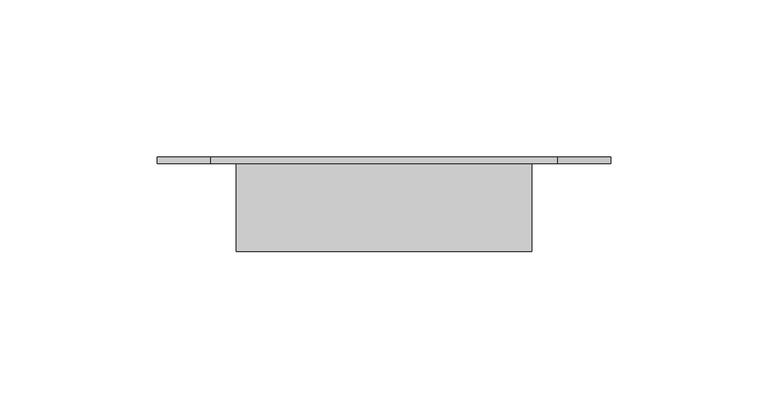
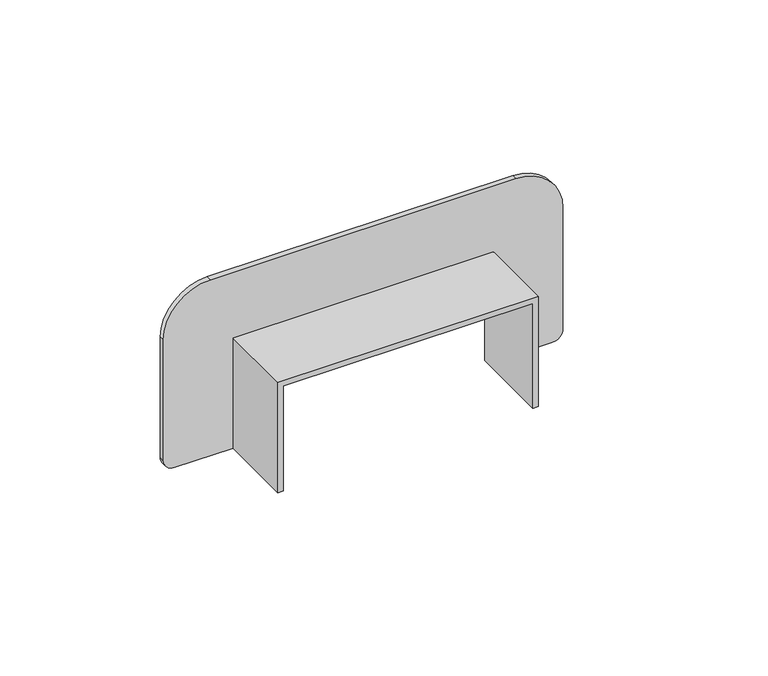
"""IFC4 building model written with IfcOpenShell, lengths in millimetres: duct fitting geometry, КНС_ПрямойВводВСтену_DKC : Прямой ввод в стену_DKC."""

import ifcopenshell
import ifcopenshell.guid

model = None  # the IFC model being written
_history = None  # IfcOwnerHistory: only IFC2X3 demands one
_inside = {}  # id of a spatial element -> (the spatial element, [elements in it])
_under = {}  # id of a project, library or spatial element -> (it, [spatial elements below it])
_declared = {}  # id of a project -> (the project, [libraries it declares])
_typed = {}  # id of a type object -> (the type object, [elements of that type])
_made_of = {}  # id of a material, layer set ... -> (it, [elements and type objects made of it])


def new_model(schema):
    """Start an empty IFC model of exactly this schema.

    Asked for "IFC4X3", IfcOpenShell would pick the latest addendum, in which some entities
    have other attributes; the version numbers below select the first issue.
    IFC2X3 requires an IfcOwnerHistory on every rooted entity: one is made here for all.
    """
    global model, _history
    if schema == "IFC4X3":
        model = ifcopenshell.file(schema_version=(4, 3, 0, 0))
    else:
        model = ifcopenshell.file(schema=schema)
    _inside.clear()
    _under.clear()
    _declared.clear()
    _typed.clear()
    _made_of.clear()
    _history = None
    if model.schema == "IFC2X3":
        org = make("IfcOrganization", Name="unknown")
        user = make(
            "IfcPersonAndOrganization",
            ThePerson=make("IfcPerson", FamilyName="unknown"),
            TheOrganization=org,
        )
        app = make(
            "IfcApplication",
            ApplicationDeveloper=org,
            Version="unknown",
            ApplicationFullName="unknown",
            ApplicationIdentifier="unknown",
        )
        _history = make(
            "IfcOwnerHistory",
            OwningUser=user,
            OwningApplication=app,
            ChangeAction="ADDED",
            CreationDate=0,
        )
    return model


def make(cls, **values):
    """One entity of the class cls with the attributes given. An attribute that is None is left unset."""
    return model.create_entity(
        cls, **{name: value for name, value in values.items() if value is not None}
    )


def rooted(cls, **values):
    """An entity with a GlobalId (a new one), such as an element, a storey or a relation."""
    return make(cls, GlobalId=ifcopenshell.guid.new(), OwnerHistory=_history, **values)


def si_unit(unit_type, name, prefix=None):
    """IfcSIUnit, for example si_unit("LENGTHUNIT", "METRE", prefix="MILLI")."""
    return make("IfcSIUnit", UnitType=unit_type, Prefix=prefix, Name=name)


def assignment(units):
    """IfcUnitAssignment: the units of a project."""
    return None if units is None else make("IfcUnitAssignment", Units=units)


def point(xyz):
    """IfcCartesianPoint."""
    return None if xyz is None else make("IfcCartesianPoint", Coordinates=xyz)


def direction(xyz):
    """IfcDirection."""
    return None if xyz is None else make("IfcDirection", DirectionRatios=xyz)


def frame(location, z_axis=None, x_axis=None):
    """IfcAxis2Placement3D, a coordinate frame: its origin and axes. An axis left out is left unset."""
    return make(
        "IfcAxis2Placement3D",
        Location=point(location),
        Axis=direction(z_axis),
        RefDirection=direction(x_axis),
    )


def frame_2d(location, x_axis=None):
    """IfcAxis2Placement2D, a coordinate frame in the plane: its origin and x axis."""
    return make(
        "IfcAxis2Placement2D", Location=point(location), RefDirection=direction(x_axis)
    )


def origin():
    """The frame at (0, 0, 0) with its axes left unset."""
    return frame((0.0, 0.0, 0.0))


def place(relative_to, where):
    """IfcLocalPlacement: puts the frame where relative to a parent placement (None: the world)."""
    return make(
        "IfcLocalPlacement", PlacementRelTo=relative_to, RelativePlacement=where
    )


def context(
    kind, dimensions, precision=None, world=None, true_north=None, identifier=None
):
    """IfcGeometricRepresentationContext, for example the 3D "Model" context."""
    return make(
        "IfcGeometricRepresentationContext",
        ContextIdentifier=identifier,
        ContextType=kind,
        CoordinateSpaceDimension=dimensions,
        Precision=precision,
        WorldCoordinateSystem=world,
        TrueNorth=true_north,
    )


def project(units=None, contexts=None):
    """IfcProject with its units and contexts."""
    return rooted(
        "IfcProject",
        Name="project",
        RepresentationContexts=contexts,
        UnitsInContext=assignment(units),
    )


def spatial(cls, under=None, at=None, **own):
    """A site, building, storey or space (cls), placed at a placement, below another one or the project."""
    s = rooted(cls, ObjectPlacement=at, **own)
    if under is not None:
        _under.setdefault(under.id(), (under, []))[1].append(s)
    return s


def polyline(points):
    """IfcPolyline through the points."""
    return make("IfcPolyline", Points=[point(p) for p in points])


def circle_curve(where, radius):
    """IfcCircle in the frame where."""
    return make("IfcCircle", Position=where, Radius=radius)


def trimmed(basis, trim1, trim2, sense, master):
    """IfcTrimmedCurve: the piece of a basis curve between two trims."""
    return make(
        "IfcTrimmedCurve",
        BasisCurve=basis,
        Trim1=trim1,
        Trim2=trim2,
        SenseAgreement=sense,
        MasterRepresentation=master,
    )


def segment(curve, same_sense, transition):
    """IfcCompositeCurveSegment."""
    return make(
        "IfcCompositeCurveSegment",
        Transition=transition,
        SameSense=same_sense,
        ParentCurve=curve,
    )


def composite_curve(segments, self_intersect=None):
    """IfcCompositeCurve: segments joined end to end."""
    return make("IfcCompositeCurve", Segments=segments, SelfIntersect=self_intersect)


def outline(outer, holes=None, kind="AREA"):
    """IfcArbitraryClosedProfileDef: a profile drawn as a closed curve; with holes, ...WithVoids."""
    if holes is None:
        return make("IfcArbitraryClosedProfileDef", ProfileType=kind, OuterCurve=outer)
    return make(
        "IfcArbitraryProfileDefWithVoids",
        ProfileType=kind,
        OuterCurve=outer,
        InnerCurves=holes,
    )


def extrude(swept, where, along, depth):
    """IfcExtrudedAreaSolid: the profile swept, set in the frame where, extruded along a direction by depth."""
    return make(
        "IfcExtrudedAreaSolid",
        SweptArea=swept,
        Position=where,
        ExtrudedDirection=direction(along),
        Depth=depth,
    )


def shape(context_of_items, identifier, shape_type, items):
    """IfcShapeRepresentation: the items that make up one representation, for example the "Body"."""
    return make(
        "IfcShapeRepresentation",
        ContextOfItems=context_of_items,
        RepresentationIdentifier=identifier,
        RepresentationType=shape_type,
        Items=items,
    )


def source(mapping_origin, context_of_items, identifier, shape_type, items):
    """IfcRepresentationMap: a shape defined once, which mapped items show again and again."""
    return make(
        "IfcRepresentationMap",
        MappingOrigin=mapping_origin,
        MappedRepresentation=shape(context_of_items, identifier, shape_type, items),
    )


def transform(
    local_origin,
    x_axis=None,
    y_axis=None,
    z_axis=None,
    scale=None,
    scale2=None,
    scale3=None,
    uniform=True,
):
    """IfcCartesianTransformationOperator3D, or its non-uniform kind. x_axis, y_axis, z_axis: its Axis1, 2, 3."""
    if uniform:
        return make(
            "IfcCartesianTransformationOperator3D",
            Axis1=direction(x_axis),
            Axis2=direction(y_axis),
            LocalOrigin=point(local_origin),
            Scale=scale,
            Axis3=direction(z_axis),
        )
    return make(
        "IfcCartesianTransformationOperator3DnonUniform",
        Axis1=direction(x_axis),
        Axis2=direction(y_axis),
        LocalOrigin=point(local_origin),
        Scale=scale,
        Axis3=direction(z_axis),
        Scale2=scale2,
        Scale3=scale3,
    )


def mapped(mapping_source, mapping_target):
    """IfcMappedItem: shows the shape of a source again, moved by a transform."""
    return make(
        "IfcMappedItem", MappingSource=mapping_source, MappingTarget=mapping_target
    )


def made_of(thing, what):
    """Note that an element or type object is made of a material, layer set ...; save() writes the relation."""
    if what is not None:
        _made_of.setdefault(what.id(), (what, []))[1].append(thing)
    return thing


def element(
    cls,
    number,
    at=None,
    inside=None,
    cuts=None,
    type_object=None,
    material=None,
    context=None,
    identifier="Body",
    shape_type=None,
    held_by="IfcProductDefinitionShape",
    body=None,
    shapes=None,
    **own,
):
    """One element of the class cls, such as IfcWall. Its Tag is "e" and its number.

    at: its placement. inside: the storey or other place that contains it. cuts: it is an
    opening in that element (IfcRelVoidsElement). A single representation is given by context,
    identifier, shape_type and body (its items); several are given by shapes. held_by: the class
    of the entity that holds the representations. save() writes the other relations.
    """
    e = rooted(cls, Tag="e%d" % number, ObjectPlacement=at, **own)
    if body is not None:
        shapes = [shape(context, identifier, shape_type, body)]
    if shapes is not None:
        e.Representation = make(held_by, Representations=shapes)
    if inside is not None:
        _inside.setdefault(inside.id(), (inside, []))[1].append(e)
    if cuts is not None:
        rooted(
            "IfcRelVoidsElement", RelatingBuildingElement=cuts, RelatedOpeningElement=e
        )
    if type_object is not None:
        _typed.setdefault(type_object.id(), (type_object, []))[1].append(e)
    return made_of(e, material)


def aggregate(whole, parts):
    """IfcRelAggregates: a whole, such as a stair, and the parts it consists of."""
    return rooted("IfcRelAggregates", RelatingObject=whole, RelatedObjects=parts)


def save(model, path):
    """Write the relations noted so far, then the file.

    IfcRelAggregates (storeys below a building ...), IfcRelContainedInSpatialStructure (elements
    in a storey), IfcRelDefinesByType, IfcRelAssociatesMaterial and IfcRelDeclares: one each for
    every whole, place, type object, material and project.
    """
    for whole, parts in _under.values():
        aggregate(whole, parts)
    for where, things in _inside.values():
        rooted(
            "IfcRelContainedInSpatialStructure",
            RelatedElements=things,
            RelatingStructure=where,
        )
    for kind, things in _typed.values():
        rooted("IfcRelDefinesByType", RelatedObjects=things, RelatingType=kind)
    for what, things in _made_of.values():
        rooted("IfcRelAssociatesMaterial", RelatedObjects=things, RelatingMaterial=what)
    for by, libraries in _declared.values():
        rooted("IfcRelDeclares", RelatingContext=by, RelatedDefinitions=libraries)
    model.write(path)


def duct_fitting_40996c47(model_context):
    return source(origin(), model_context, "Body", "SweptSolid", [
        extrude(outline(composite_curve([segment(polyline([(-20.0, -47.0), (22.0, -47.0), (22.0, 47.0), (-20.0, 47.0), (-20.0, 68.0039239)]), True, "CONTINUOUS"), segment(trimmed(circle_curve(frame_2d((-16.0039239, 68.0039239)), 3.9960761), [point((-20.0, 68.0039239))], [point((-16.0039239, 72.0))], False, "CARTESIAN"), True, "CONTINUOUS"), segment(polyline([(-16.0039239, 72.0), (30.0, 72.0)]), True, "CONTINUOUS"), segment(trimmed(circle_curve(frame_2d((30.0, 55.0)), 17.0), [point((30.0, 72.0))], [point((47.0, 55.0))], False, "CARTESIAN"), True, "CONTINUOUS"), segment(polyline([(47.0, 55.0), (47.0, -55.0)]), True, "CONTINUOUS"), segment(trimmed(circle_curve(frame_2d((30.0, -55.0)), 17.0), [point((47.0, -55.0))], [point((30.0, -72.0))], False, "CARTESIAN"), True, "CONTINUOUS"), segment(polyline([(30.0, -72.0), (-16.0204043, -72.0)]), True, "CONTINUOUS"), segment(trimmed(circle_curve(frame_2d((-16.0204043, -68.0204043)), 3.9795957), [point((-16.0204043, -72.0))], [point((-20.0, -68.0204043))], False, "CARTESIAN"), True, "CONTINUOUS"), segment(polyline([(-20.0, -68.0204043), (-20.0, -47.0)]), True, "CONTINUOUS")], self_intersect=False)), frame((0.0, 28.0, 0.0), z_axis=(0.0, 1.0, 0.0), x_axis=(0.0, 0.0, 1.0)), (0.0, 0.0, 1.0), 2.0),
        extrude(outline(polyline([(-20.0, -45.0), (20.0, -45.0), (20.0, 45.0), (-20.0, 45.0), (-20.0, 47.0), (22.0, 47.0), (22.0, -47.0), (-20.0, -47.0), (-20.0, -45.0)])), frame((0.0, 0.0, 0.0), z_axis=(0.0, 1.0, 0.0), x_axis=(0.0, 0.0, 1.0)), (0.0, 0.0, 1.0), 30.0),
    ])


if __name__ == "__main__":
    model = new_model("IFC4")
    model_context = context("Model", 3, world=origin())
    ifc_project = project(units=[si_unit("LENGTHUNIT", "METRE", prefix="MILLI")], contexts=[model_context])
    site = spatial("IfcSite", under=ifc_project)
    building = spatial("IfcBuilding", under=site)
    placement = place(None, origin())
    duct_fitting_shape = duct_fitting_40996c47(model_context)
    element("IfcDuctFitting", 1, ObjectType="КНС_ПрямойВводВСтену_DKC : Прямой ввод в стену_DKC", at=placement, inside=building, context=model_context, shape_type="MappedRepresentation", body=[
        mapped(duct_fitting_shape, transform((0.0, 0.0, 0.0), x_axis=(1.0, 0.0, 0.0), y_axis=(0.0, 1.0, 0.0), z_axis=(0.0, 0.0, 1.0))),
    ])
    save(model, "model.ifc")
